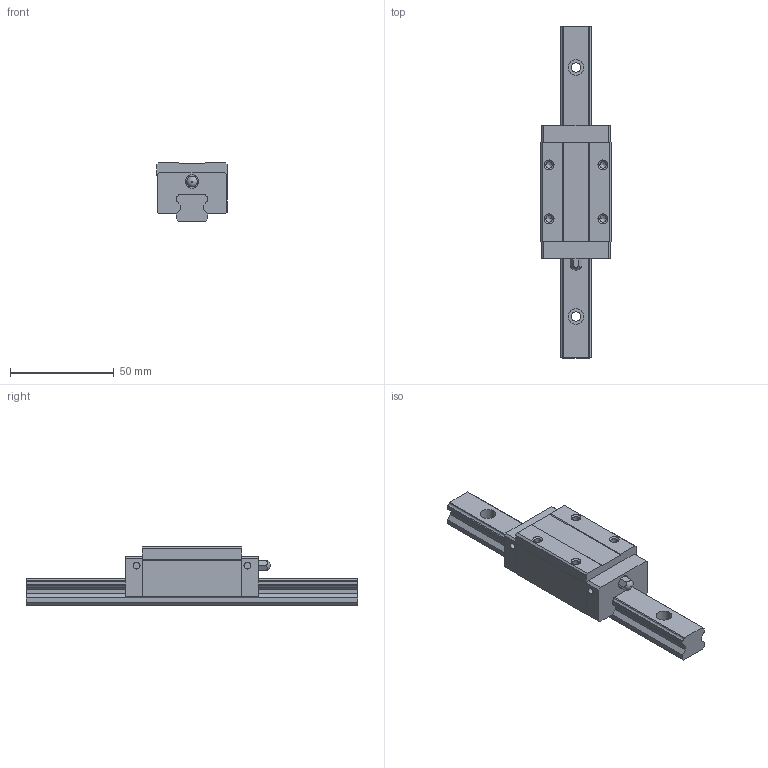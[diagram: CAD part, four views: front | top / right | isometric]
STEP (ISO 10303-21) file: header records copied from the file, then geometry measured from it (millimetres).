
FILE_DESCRIPTION((''),'1');
FILE_NAME(' ',' ',(''),(''),'ACIS Interop R16','Kubotek KeyCreator V6.5.2 (0407)',' ');
FILE_SCHEMA(('CONFIG_CONTROL_DESIGN'));
Length unit declared in the file: millimetre
Products named in the file (3): 1; 2; 3
Bounding box: 34 x 160 x 28 mm (x, y, z)
Volume: 68770.3 mm3; surface area: 20925 mm2
Topology: 3 solids, 3 shells, 149 faces, 390 edges, 254 vertices
Faces by surface type: plane 75, cylinder 54, cone 18, sphere 2
Entity records: 4700 total; most frequent: DIRECTION 822, CARTESIAN_POINT 788, ORIENTED_EDGE 764, EDGE_CURVE 382, AXIS2_PLACEMENT_3D 288, VERTEX_POINT 254, LINE 246, VECTOR 246
